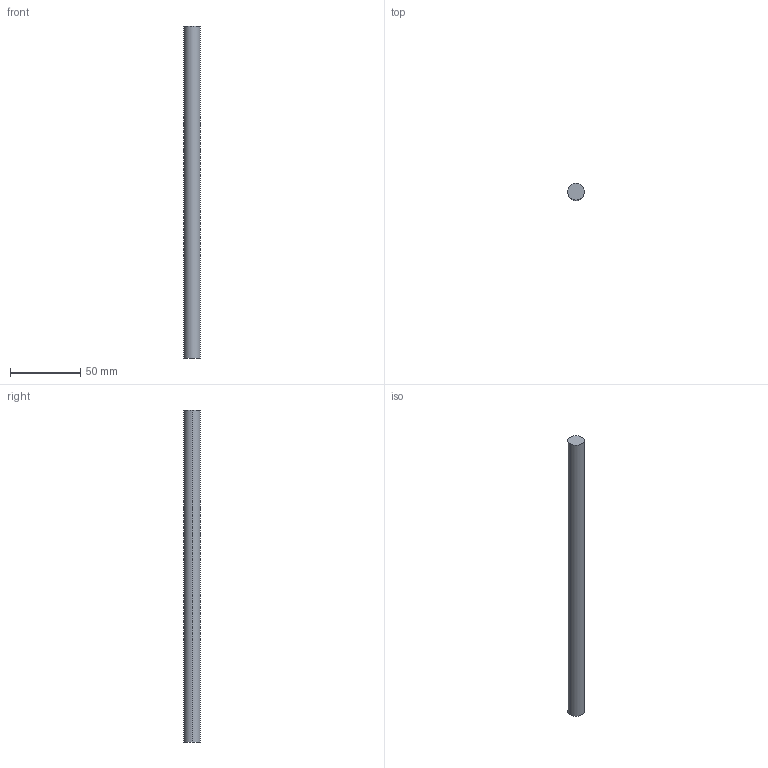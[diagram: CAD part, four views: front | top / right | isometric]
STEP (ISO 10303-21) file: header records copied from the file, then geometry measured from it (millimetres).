
FILE_DESCRIPTION (( 'STEP AP214' ), '1' );
FILE_NAME ('Innenschub H182 - S16_S17 - 350.step', '2010-09-07T14:55:56', ( 'grass' ), ( '' ), 'SwSTEP 2.0', 'SolidWorks 2010', '' );
FILE_SCHEMA (( 'AUTOMOTIVE_DESIGN' ));
Length unit declared in the file: millimetre
Products named in the file (1): Innenschub H182 - S16_S17 - 350
Bounding box: 12 x 12 x 237 mm (x, y, z)
Volume: 26804.1 mm3; surface area: 9160.9 mm2
Topology: 1 solids, 1 shells, 4 faces, 6 edges, 4 vertices
Faces by surface type: cylinder 2, plane 2
Entity records: 128 total; most frequent: DIRECTION 20, CARTESIAN_POINT 15, ORIENTED_EDGE 12, AXIS2_PLACEMENT_3D 9, EDGE_CURVE 6, ADVANCED_FACE 4, FACE_OUTER_BOUND 4, EDGE_LOOP 4
